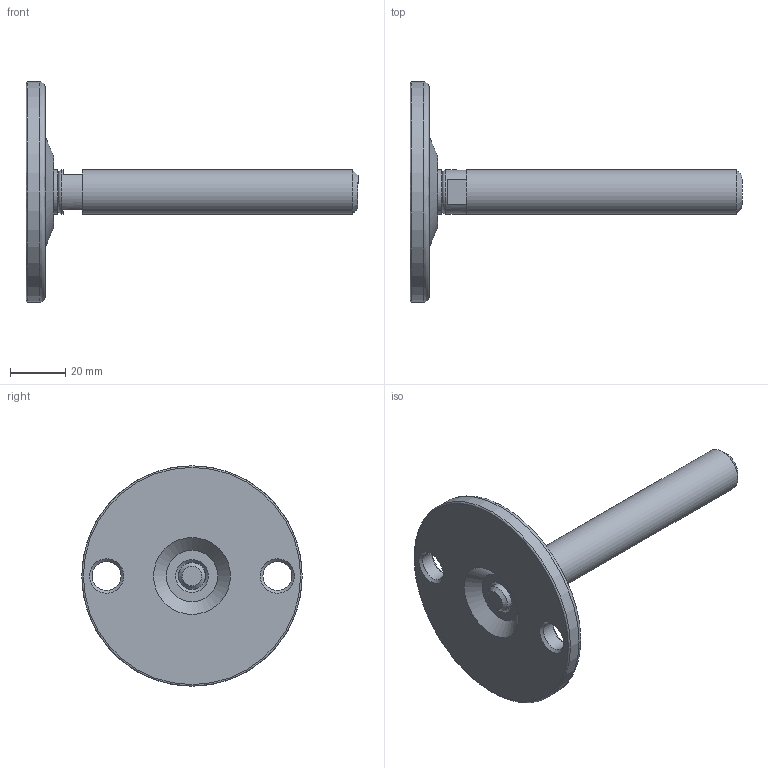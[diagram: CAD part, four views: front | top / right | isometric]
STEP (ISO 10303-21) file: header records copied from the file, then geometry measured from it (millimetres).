
FILE_DESCRIPTION(('STEP AP203'),'2;1');
FILE_NAME('15204.stp','2017-04-12T15:38:09',(''),(''),'2008.1.107','THINKDESIGN','');
FILE_SCHEMA(('CONFIG_CONTROL_DESIGN'));
Length unit declared in the file: millimetre
Bounding box: 120.5 x 80 x 80 mm (x, y, z)
Volume: 56389.2 mm3; surface area: 18791.4 mm2
Topology: 5 solids, 5 shells, 37 faces, 95 edges, 71 vertices
Faces by surface type: plane 16, bspline 13, cylinder 8
Full cylindrical faces by diameter (mm): 9.8 x1, 10 x1, 10.5 x2, 16 x3, 80 x1
Entity records: 2511 total; most frequent: CARTESIAN_POINT 1369, DIRECTION 212, ORIENTED_EDGE 188, EDGE_CURVE 94, AXIS2_PLACEMENT_3D 93, VERTEX_POINT 69, CIRCLE 69, EDGE_LOOP 45
